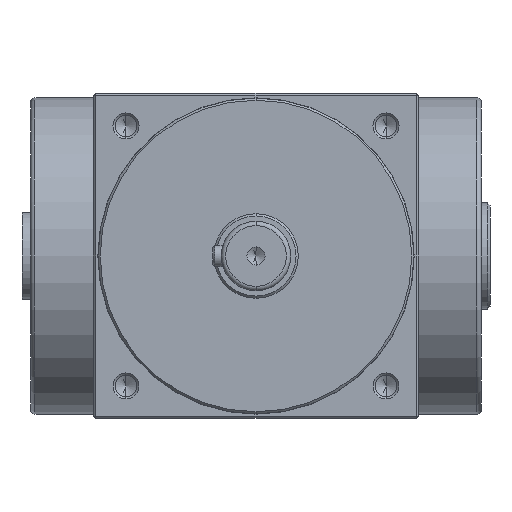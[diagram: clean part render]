
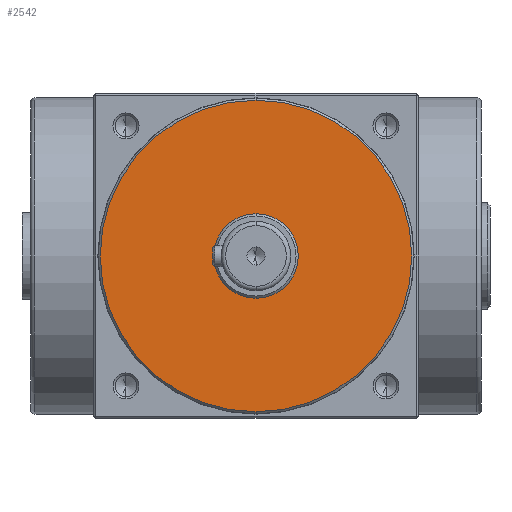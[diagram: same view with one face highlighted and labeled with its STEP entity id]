
A CAD part, front view. The second image highlights one B-rep face of the part: STEP entity #2542.
In plain terms, the highlighted planar face has unit normal (0, -1, 0).
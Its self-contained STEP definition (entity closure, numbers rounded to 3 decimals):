
#179 = ORIENTED_EDGE ( 'NONE', *, *, #3528, .F. ) ;
#229 = CARTESIAN_POINT ( 'NONE',  ( 0., -88., 9.75 ) ) ;
#536 = EDGE_LOOP ( 'NONE', ( #2710, #179 ) ) ;
#1106 = DIRECTION ( 'NONE',  ( 0., -1., 0. ) ) ;
#1539 = CARTESIAN_POINT ( 'NONE',  ( 0., -88., 0. ) ) ;
#1926 = CARTESIAN_POINT ( 'NONE',  ( 0., -88., -35.95 ) ) ;
#2065 = CARTESIAN_POINT ( 'NONE',  ( 0., -88., 0. ) ) ;
#2142 = EDGE_CURVE ( 'NONE', #3289, #2668, #3918, .T. ) ;
#2542 = ADVANCED_FACE ( 'NONE', ( #5965, #3340 ), #8717, .T. ) ;
#2668 = VERTEX_POINT ( 'NONE', #1926 ) ;
#2674 = AXIS2_PLACEMENT_3D ( 'NONE', #8796, #1106, #6545 ) ;
#2710 = ORIENTED_EDGE ( 'NONE', *, *, #3139, .F. ) ;
#3057 = DIRECTION ( 'NONE',  ( 0., -1., 0. ) ) ;
#3137 = CIRCLE ( 'NONE', #9860, 35.95 ) ;
#3139 = EDGE_CURVE ( 'NONE', #7210, #3503, #9818, .T. ) ;
#3289 = VERTEX_POINT ( 'NONE', #5935 ) ;
#3340 = FACE_BOUND ( 'NONE', #536, .T. ) ;
#3503 = VERTEX_POINT ( 'NONE', #4570 ) ;
#3528 = EDGE_CURVE ( 'NONE', #3503, #7210, #5402, .T. ) ;
#3686 = CARTESIAN_POINT ( 'NONE',  ( 0., -88., 0. ) ) ;
#3918 = CIRCLE ( 'NONE', #2674, 35.95 ) ;
#4133 = DIRECTION ( 'NONE',  ( 0., 0., -1. ) ) ;
#4303 = DIRECTION ( 'NONE',  ( 0., 0., -1. ) ) ;
#4458 = EDGE_LOOP ( 'NONE', ( #8184, #5372 ) ) ;
#4570 = CARTESIAN_POINT ( 'NONE',  ( 0., -88., -9.75 ) ) ;
#5372 = ORIENTED_EDGE ( 'NONE', *, *, #8107, .T. ) ;
#5402 = CIRCLE ( 'NONE', #6920, 9.75 ) ;
#5850 = DIRECTION ( 'NONE',  ( 0., -1., 0. ) ) ;
#5935 = CARTESIAN_POINT ( 'NONE',  ( 0., -88., 35.95 ) ) ;
#5965 = FACE_OUTER_BOUND ( 'NONE', #4458, .T. ) ;
#6545 = DIRECTION ( 'NONE',  ( 0., 0., -1. ) ) ;
#6678 = DIRECTION ( 'NONE',  ( 0., 0., -1. ) ) ;
#6894 = DIRECTION ( 'NONE',  ( 0., 0., -1. ) ) ;
#6920 = AXIS2_PLACEMENT_3D ( 'NONE', #1539, #3057, #6894 ) ;
#7210 = VERTEX_POINT ( 'NONE', #229 ) ;
#7309 = AXIS2_PLACEMENT_3D ( 'NONE', #2065, #7515, #4303 ) ;
#7515 = DIRECTION ( 'NONE',  ( 0., -1., 0. ) ) ;
#7897 = DIRECTION ( 'NONE',  ( 0., -1., 0. ) ) ;
#7926 = AXIS2_PLACEMENT_3D ( 'NONE', #8691, #7897, #4133 ) ;
#8107 = EDGE_CURVE ( 'NONE', #2668, #3289, #3137, .T. ) ;
#8184 = ORIENTED_EDGE ( 'NONE', *, *, #2142, .T. ) ;
#8691 = CARTESIAN_POINT ( 'NONE',  ( 0., -88., 0. ) ) ;
#8717 = PLANE ( 'NONE',  #7926 ) ;
#8796 = CARTESIAN_POINT ( 'NONE',  ( 0., -88., 0. ) ) ;
#9818 = CIRCLE ( 'NONE', #7309, 9.75 ) ;
#9860 = AXIS2_PLACEMENT_3D ( 'NONE', #3686, #5850, #6678 ) ;
